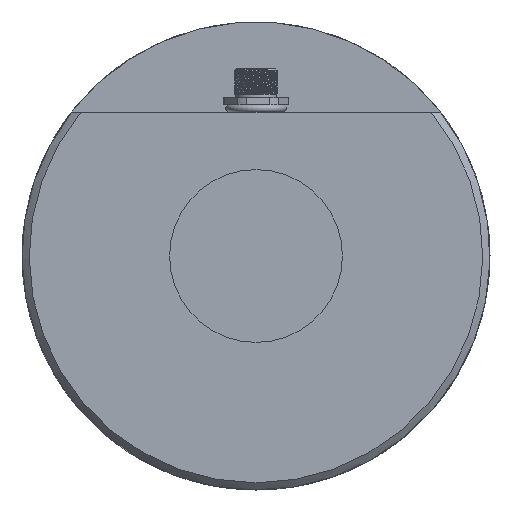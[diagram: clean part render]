
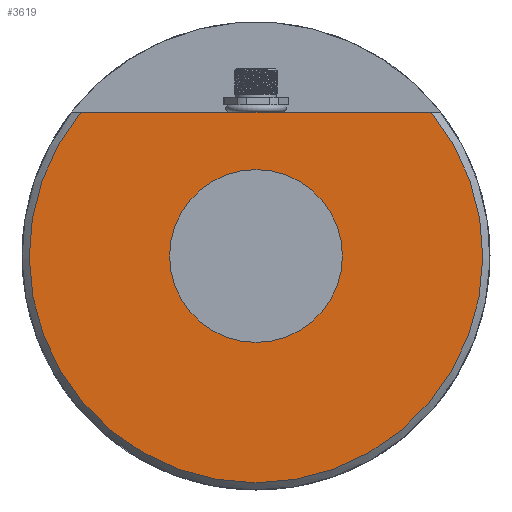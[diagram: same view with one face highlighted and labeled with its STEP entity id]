
A CAD part, left-side view. The second image highlights one B-rep face of the part: STEP entity #3619.
In plain terms, the highlighted planar face has unit normal (-1, 0, 0).
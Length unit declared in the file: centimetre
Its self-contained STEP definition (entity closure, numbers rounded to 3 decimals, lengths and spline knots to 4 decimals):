
#715=PLANE('',#3875);
#750=VECTOR('',#16749,1.);
#914=LINE('',#4193,#750);
#1272=VERTEX_POINT('',#4176);
#1275=VERTEX_POINT('',#4183);
#1428=VERTEX_POINT('',#6211);
#1564=CIRCLE('',#3734,6.3);
#1605=CIRCLE('',#3842,2.4);
#1686=EDGE_CURVE('',#1275,#1272,#1564,.T.);
#1691=EDGE_CURVE('',#1275,#1272,#914,.T.);
#1906=EDGE_CURVE('',#1428,#1428,#1605,.T.);
#2649=ORIENTED_EDGE('',*,*,#1686,.F.);
#2650=ORIENTED_EDGE('',*,*,#1691,.T.);
#2651=ORIENTED_EDGE('',*,*,#1906,.T.);
#3141=EDGE_LOOP('',(#2649,#2650));
#3142=EDGE_LOOP('',(#2651));
#3385=FACE_BOUND('',#3141,.T.);
#3386=FACE_BOUND('',#3142,.T.);
#3619=ADVANCED_FACE('',(#3385,#3386),#715,.T.);
#3734=AXIS2_PLACEMENT_3D('',#4184,#16741,#16742);
#3842=AXIS2_PLACEMENT_3D('',#6210,#17032,#17033);
#3875=AXIS2_PLACEMENT_3D('',#6247,#17086,$);
#4176=CARTESIAN_POINT('',(0.,4.8672,4.));
#4183=CARTESIAN_POINT('',(0.,-4.8672,4.));
#4184=CARTESIAN_POINT('',(0.,0.,0.));
#4193=CARTESIAN_POINT('',(0.,2.775,4.));
#6210=CARTESIAN_POINT('',(0.,0.,0.));
#6211=CARTESIAN_POINT('',(0.,0.,2.4));
#6247=CARTESIAN_POINT('',(0.,0.,-3.25));
#16741=DIRECTION('',(1.,0.,0.));
#16742=DIRECTION('',(0.,0.,-6.3));
#16749=DIRECTION('',(0.,1.,0.));
#17032=DIRECTION('',(1.,0.,0.));
#17033=DIRECTION('',(0.,0.,2.4));
#17086=DIRECTION('',(-1.,0.,0.));
